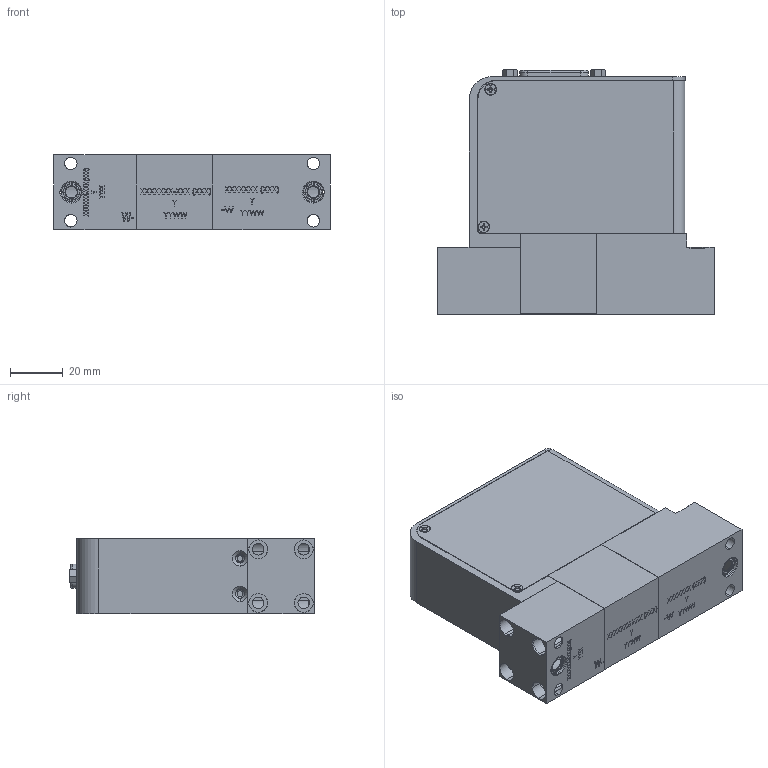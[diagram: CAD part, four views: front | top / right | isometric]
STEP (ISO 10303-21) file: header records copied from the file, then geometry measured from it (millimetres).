
FILE_DESCRIPTION (( 'STEP AP203' ), '1' );
FILE_NAME ('GF120XHT-WX.STEP', '2023-11-30T12:35:16', ( '' ), ( '' ), 'SwSTEP 2.0', 'SolidWorks 2020', '' );
FILE_SCHEMA (( 'CONFIG_CONTROL_DESIGN' ));
Products named in the file (1): GF120XHT-WX
Bounding box: 104.95 x 92.91 x 28.52 mm (x, y, z)
Volume: 44356.2 mm3; surface area: 61239.7 mm2
Topology: 15 solids, 15 shells, 1812 faces, 4988 edges, 3300 vertices
Faces by surface type: plane 1039, cylinder 370, cone 198, bspline 175, torus 30
Entity records: 71722 total; most frequent: CARTESIAN_POINT 26999, ORIENTED_EDGE 9940, DIRECTION 8231, EDGE_CURVE 4970, VERTEX_POINT 3300, LINE 3085, VECTOR 3085, AXIS2_PLACEMENT_3D 2573
